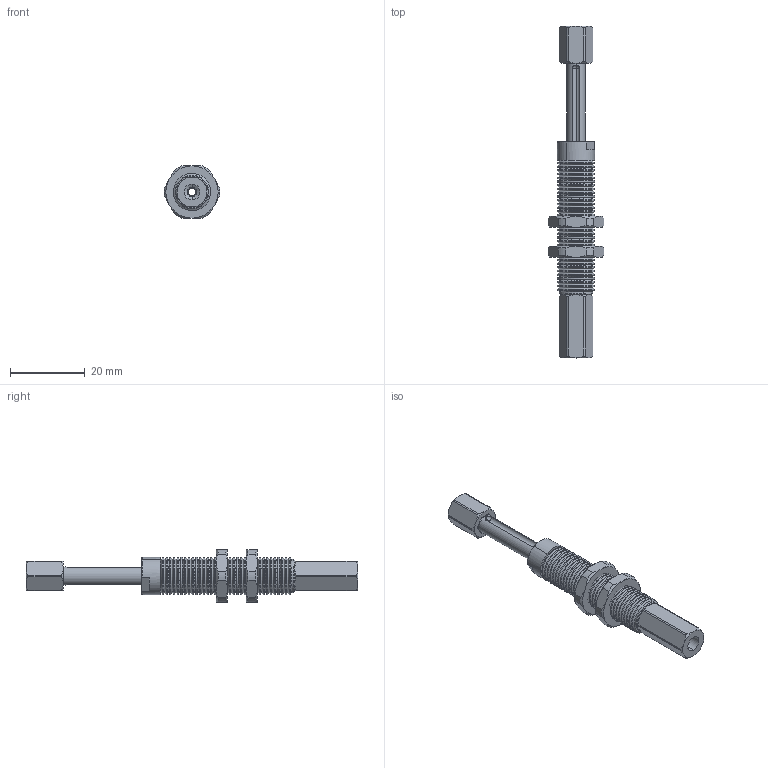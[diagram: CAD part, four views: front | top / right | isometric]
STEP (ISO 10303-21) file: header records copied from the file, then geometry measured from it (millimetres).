
FILE_DESCRIPTION (( 'STEP AP214' ), '1' );
FILE_NAME ('VFNT1021-M5.STEP', '2019-11-18T05:10:17', ( '微软用户' ), ( '微软中国' ), 'SwSTEP 2.0', 'SolidWorks 2016', '' );
FILE_SCHEMA (( 'AUTOMOTIVE_DESIGN' ));
Length unit declared in the file: millimetre
Products named in the file (1): VFNT1021-M5
Bounding box: 14.98 x 89 x 14 mm (x, y, z)
Volume: 4804.9 mm3; surface area: 6439.5 mm2
Topology: 6 solids, 6 shells, 497 faces, 1070 edges, 593 vertices
Faces by surface type: cone 263, cylinder 170, plane 52, sphere 8, torus 4
Entity records: 19177 total; most frequent: CARTESIAN_POINT 2873, DIRECTION 2417, ORIENTED_EDGE 2140, EDGE_CURVE 1070, AXIS2_PLACEMENT_3D 1003, VERTEX_POINT 593, EDGE_LOOP 521, CIRCLE 505
